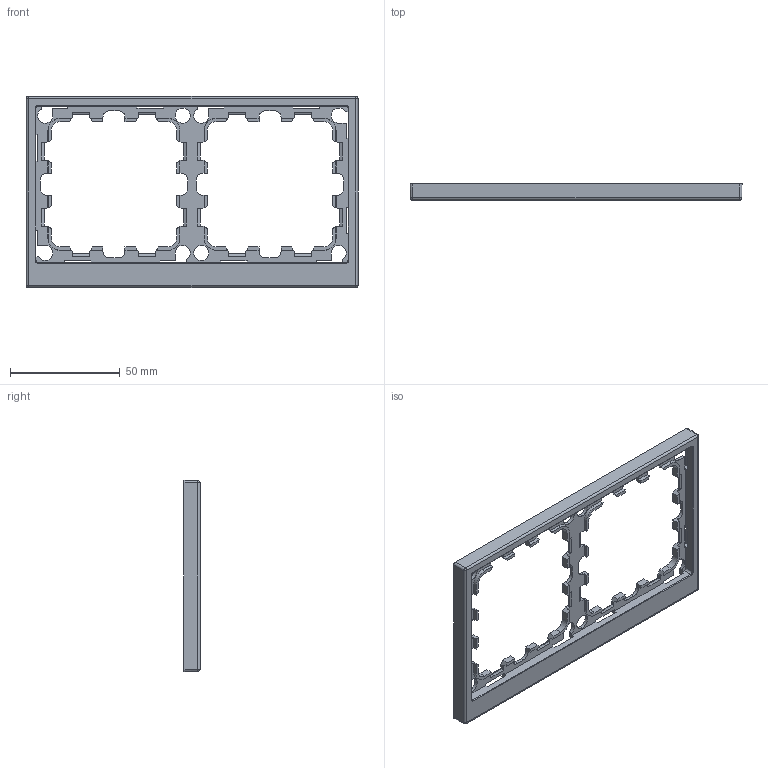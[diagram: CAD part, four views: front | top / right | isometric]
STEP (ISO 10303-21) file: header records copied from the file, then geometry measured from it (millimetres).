
FILE_DESCRIPTION (( 'STEP AP203' ), '1' );
FILE_NAME ('7000904.STEP', '2025-12-04T13:16:31', ( '' ), ( '' ), 'SwSTEP 2.0', 'SolidWorks 2022', '' );
FILE_SCHEMA (( 'CONFIG_CONTROL_DESIGN' ));
Length unit declared in the file: millimetre
Products named in the file (1): 7000904
Bounding box: 151 x 7.3 x 87 mm (x, y, z)
Volume: 14543.3 mm3; surface area: 21712.7 mm2
Topology: 1 solids, 1 shells, 414 faces, 1281 edges, 844 vertices
Faces by surface type: plane 299, cylinder 77, cone 26, bspline 4, torus 4, sphere 4
Entity records: 14372 total; most frequent: CARTESIAN_POINT 2736, ORIENTED_EDGE 2554, DIRECTION 2273, EDGE_CURVE 1277, LINE 1055, VECTOR 1055, VERTEX_POINT 844, AXIS2_PLACEMENT_3D 609
